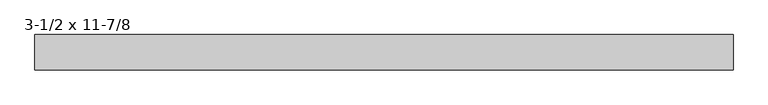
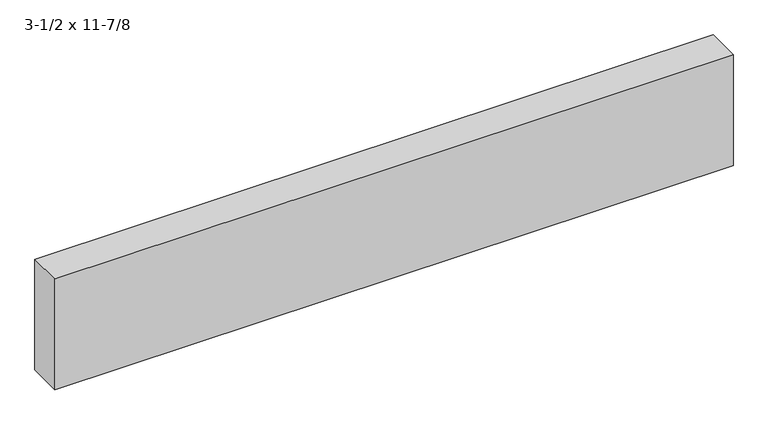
"""IFC4 building model written with IfcOpenShell, lengths in millimetres: beam geometry, Trus Joist - Parallam PSL - Beam Header : 3-1/2 x 11-7/8."""

from ifc_helpers import new_model, si_unit, frame, origin, place, context, project, spatial, polyline, outline, extrude, source, transform, mapped, element, save


def beam_3_1_2_x_11_7_8_711fe30c(model_context):
    return source(origin(), model_context, "Body", "SweptSolid", [
        extrude(outline(polyline([(885.825, 44.45), (885.825, -44.45), (-860.425, -44.45), (-860.425, 44.45), (885.825, 44.45)])), frame((0.0, 0.0, -150.8125), z_axis=(0.0, 0.0, 1.0), x_axis=(1.0, 0.0, 0.0)), (0.0, 0.0, 1.0), 301.625),
    ])


if __name__ == "__main__":
    model = new_model("IFC4")
    model_context = context("Model", 3, world=origin())
    ifc_project = project(units=[si_unit("LENGTHUNIT", "METRE", prefix="MILLI")], contexts=[model_context])
    site = spatial("IfcSite", under=ifc_project)
    building = spatial("IfcBuilding", under=site)
    placement = place(None, origin())
    beam_3_1_2_x_11_7_8_shape = beam_3_1_2_x_11_7_8_711fe30c(model_context)
    element("IfcBeam", 1, ObjectType="Trus Joist - Parallam PSL - Beam Header : 3-1/2 x 11-7/8", at=placement, inside=building, context=model_context, shape_type="MappedRepresentation", body=[
        mapped(beam_3_1_2_x_11_7_8_shape, transform((0.0, 0.0, 0.0), x_axis=(1.0, 0.0, 0.0), y_axis=(0.0, 1.0, 0.0), z_axis=(0.0, 0.0, 1.0))),
    ])
    save(model, "model.ifc")
